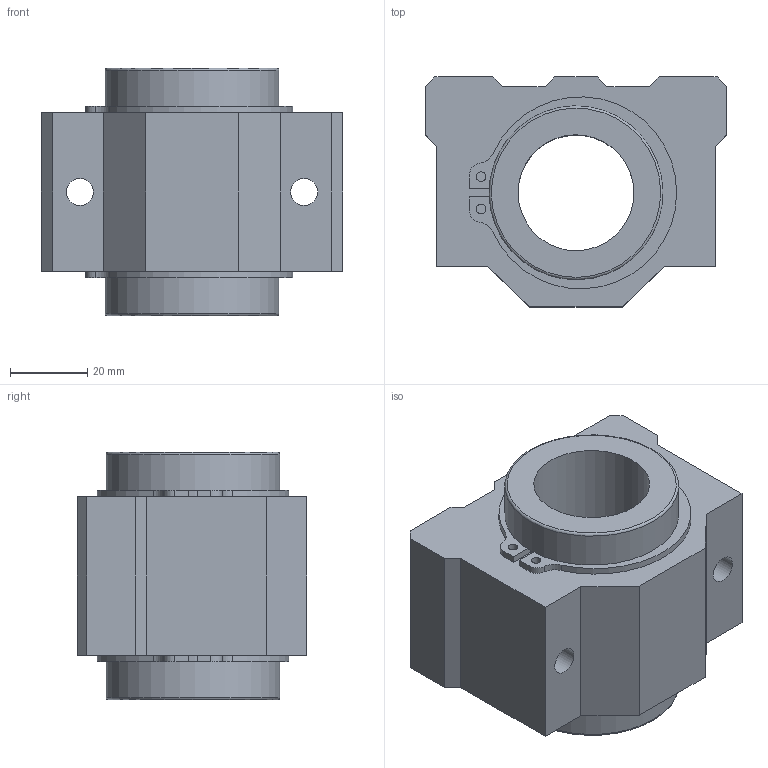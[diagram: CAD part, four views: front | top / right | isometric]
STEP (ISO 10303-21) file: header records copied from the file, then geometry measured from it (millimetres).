
FILE_DESCRIPTION(('STEP AP203'),'1');
FILE_NAME('//192.168.1.1/share/s-4 技術開発/s-4-4_CAD/s-4-4-3_見直し済み/008 修正済み/LC-C/LC-C_TOP/LC-30VCUU.step','2022-05-19T01:25:53',(' '),(' '),'Spatial InterOp 3D',' ',' ');
FILE_SCHEMA(('CONFIG_CONTROL_DESIGN'));
Length unit declared in the file: millimetre
Products named in the file (4): 1; 2; 3; 4
Bounding box: 78 x 59.5 x 64 mm (x, y, z)
Volume: 149525.5 mm3; surface area: 43758.2 mm2
Topology: 4 solids, 4 shells, 71 faces, 177 edges, 118 vertices
Faces by surface type: plane 42, cylinder 27, torus 2
Full cylindrical faces by diameter (mm): 2.5 x4, 7 x4, 30 x1, 43 x2, 45 x4
Entity records: 2212 total; most frequent: DIRECTION 360, CARTESIAN_POINT 345, ORIENTED_EDGE 312, EDGE_CURVE 156, AXIS2_PLACEMENT_3D 129, VERTEX_POINT 114, EDGE_LOOP 108, LINE 102
